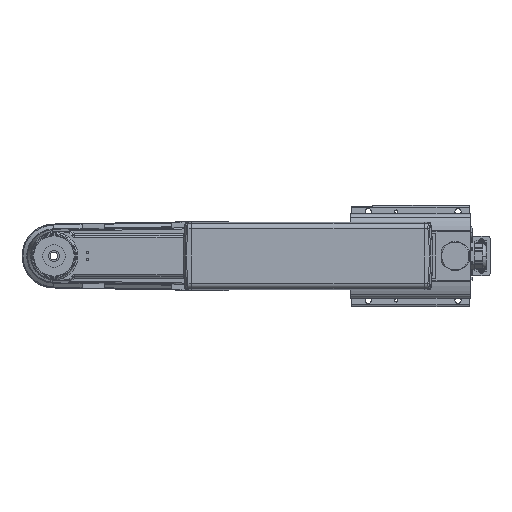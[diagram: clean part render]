
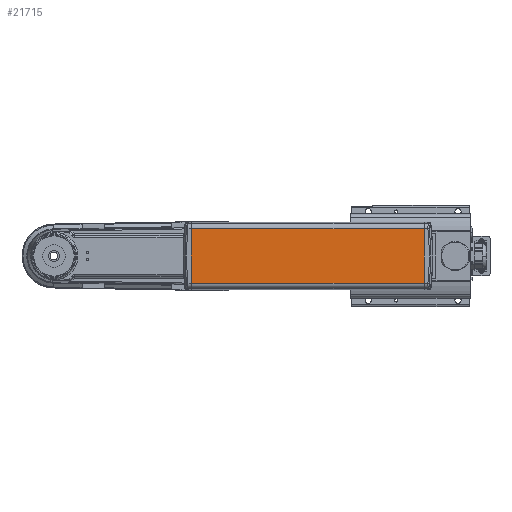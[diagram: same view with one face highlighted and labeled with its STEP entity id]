
A CAD part, front view. The second image highlights one B-rep face of the part: STEP entity #21715.
In plain terms, the highlighted planar face has unit normal (0, -1, 0).
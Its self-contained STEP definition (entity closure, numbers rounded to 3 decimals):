
#18522=CARTESIAN_POINT('',(59.993,-249.,
48.357));
#18539=DIRECTION('',(1.,0.,0.));
#18540=VECTOR('',#18539,414.988);
#18541=CARTESIAN_POINT('',(-354.994,-249.,
-48.345));
#18542=LINE('',#18541,#18540);
#18585=CARTESIAN_POINT('',(-354.994,-249.,
-48.345));
#18628=DIRECTION('',(0.,0.,-1.));
#18629=VECTOR('',#18628,96.425);
#18630=CARTESIAN_POINT('',(-355.,-249.,
48.213));
#18631=LINE('',#18630,#18629);
#18632=CARTESIAN_POINT('',(-355.,-249.,
48.213));
#18633=CARTESIAN_POINT('',(-355.,-249.,
48.236));
#18634=CARTESIAN_POINT('',(-354.99,-249.,
48.284));
#18635=CARTESIAN_POINT('',(-354.999,-249.,
48.332));
#18636=CARTESIAN_POINT('',(-354.993,-249.,
48.357));
#18638=CARTESIAN_POINT('',(59.993,-249.,
48.357));
#18639=CARTESIAN_POINT('',(59.999,-249.,
48.332));
#18640=CARTESIAN_POINT('',(59.99,-249.,
48.284));
#18641=CARTESIAN_POINT('',(60.,-249.,48.236));
#18642=CARTESIAN_POINT('',(60.,-249.,48.213));
#18644=DIRECTION('',(0.,0.,-1.));
#18645=VECTOR('',#18644,96.425);
#18646=CARTESIAN_POINT('',(60.,-249.,48.213));
#18647=LINE('',#18646,#18645);
#18648=CARTESIAN_POINT('',(60.,-249.,
-48.213));
#18649=CARTESIAN_POINT('',(60.,-249.,
-48.234));
#18650=CARTESIAN_POINT('',(59.992,-249.,
-48.279));
#18651=CARTESIAN_POINT('',(59.999,-249.,
-48.322));
#18652=CARTESIAN_POINT('',(59.994,-249.,
-48.345));
#18654=CARTESIAN_POINT('',(-354.994,-249.,
-48.345));
#18655=CARTESIAN_POINT('',(-354.999,-249.,
-48.322));
#18656=CARTESIAN_POINT('',(-354.992,-249.,
-48.279));
#18657=CARTESIAN_POINT('',(-355.,-249.,-48.234));
#18658=CARTESIAN_POINT('',(-355.,-249.,-48.213));
#18690=DIRECTION('',(-1.,0.,0.));
#18691=VECTOR('',#18690,414.986);
#18692=CARTESIAN_POINT('',(59.993,-249.,
48.357));
#18693=LINE('',#18692,#18691);
#19648=CARTESIAN_POINT('',(60.,-249.,48.213));
#19649=CARTESIAN_POINT('',(60.,-249.,
-48.213));
#19650=VERTEX_POINT('',#19648);
#19651=VERTEX_POINT('',#19649);
#19658=VERTEX_POINT('',#18652);
#19661=VERTEX_POINT('',#18522);
#19671=CARTESIAN_POINT('',(-355.,-249.,
48.213));
#19672=CARTESIAN_POINT('',(-355.,-249.,-48.213));
#19673=VERTEX_POINT('',#19671);
#19674=VERTEX_POINT('',#19672);
#19679=VERTEX_POINT('',#18636);
#19681=VERTEX_POINT('',#18585);
#21694=CARTESIAN_POINT('',(-147.5,-249.,0.006));
#21695=DIRECTION('',(0.,1.,0.));
#21696=DIRECTION('',(1.,0.,0.));
#21697=AXIS2_PLACEMENT_3D('',#21694,#21695,#21696);
#21698=PLANE('',#21697);
#21700=ORIENTED_EDGE('',*,*,#21699,.F.);
#21701=ORIENTED_EDGE('',*,*,#21676,.T.);
#21703=ORIENTED_EDGE('',*,*,#21702,.F.);
#21705=ORIENTED_EDGE('',*,*,#21704,.T.);
#21707=ORIENTED_EDGE('',*,*,#21706,.T.);
#21709=ORIENTED_EDGE('',*,*,#21708,.T.);
#21710=ORIENTED_EDGE('',*,*,#21588,.F.);
#21712=ORIENTED_EDGE('',*,*,#21711,.T.);
#21713=EDGE_LOOP('',(#21700,#21701,#21703,#21705,#21707,#21709,#21710,#21712));
#21714=FACE_OUTER_BOUND('',#21713,.F.);
#18637=B_SPLINE_CURVE_WITH_KNOTS('',3,(#18632,#18633,#18634,#18635,#18636),
.UNSPECIFIED.,.F.,.F.,(4,1,4),(0.,0.5,1.),.UNSPECIFIED.);
#18643=B_SPLINE_CURVE_WITH_KNOTS('',3,(#18638,#18639,#18640,#18641,#18642),
.UNSPECIFIED.,.F.,.F.,(4,1,4),(0.,0.5,1.),.UNSPECIFIED.);
#18653=B_SPLINE_CURVE_WITH_KNOTS('',3,(#18648,#18649,#18650,#18651,#18652),
.UNSPECIFIED.,.F.,.F.,(4,1,4),(0.,0.5,1.),.UNSPECIFIED.);
#18659=B_SPLINE_CURVE_WITH_KNOTS('',3,(#18654,#18655,#18656,#18657,#18658),
.UNSPECIFIED.,.F.,.F.,(4,1,4),(0.,0.5,1.),.UNSPECIFIED.);
#21588=EDGE_CURVE('',#19681,#19658,#18542,.T.);
#21676=EDGE_CURVE('',#19673,#19679,#18637,.T.);
#21699=EDGE_CURVE('',#19673,#19674,#18631,.T.);
#21702=EDGE_CURVE('',#19661,#19679,#18693,.T.);
#21704=EDGE_CURVE('',#19661,#19650,#18643,.T.);
#21706=EDGE_CURVE('',#19650,#19651,#18647,.T.);
#21708=EDGE_CURVE('',#19651,#19658,#18653,.T.);
#21711=EDGE_CURVE('',#19681,#19674,#18659,.T.);
#21715=ADVANCED_FACE('',(#21714),#21698,.F.);
